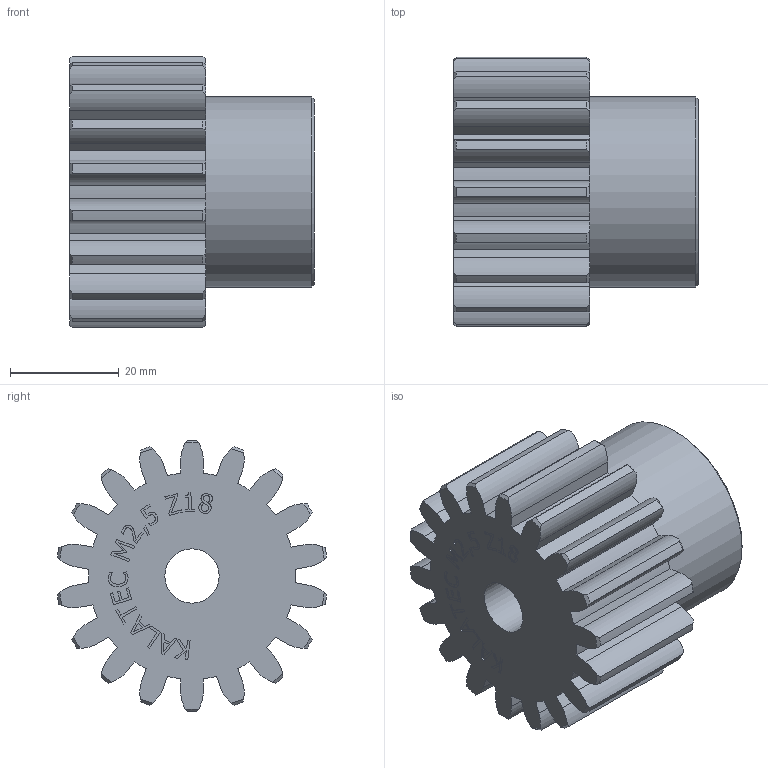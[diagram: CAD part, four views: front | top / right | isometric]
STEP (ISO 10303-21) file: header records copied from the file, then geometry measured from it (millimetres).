
FILE_DESCRIPTION(/* description */ (''),/* implementation_level */ '2;1');
FILE_NAME(/* name */ '\\JOINapp01\Profiles\martins\Desktop\ENGRENAGEM\ENGRENAGEM CORRETA\ENG DENTE RETO M2,5 Z18.step',/* time_stamp */ '2018-07-06T13:42:38-03:00',/* author */ ('martins'),/* organization */ (''),/* preprocessor_version */ 'ST-DEVELOPER v16.1',/* originating_system */ 'Autodesk Inventor 2016',/* authorisation */ '');
FILE_SCHEMA (('AUTOMOTIVE_DESIGN { 1 0 10303 214 3 1 1 }'));
Length unit declared in the file: millimetre
Products named in the file (1): ENG DENTE RETO M2,5 Z18
Bounding box: 45 x 49.51 x 50 mm (x, y, z)
Volume: 53960.2 mm3; surface area: 14101.5 mm2
Topology: 1 solids, 1 shells, 343 faces, 971 edges, 647 vertices
Faces by surface type: plane 172, cylinder 74, bspline 60, cone 37
Full cylindrical faces by diameter (mm): 10 x1, 35 x1
Entity records: 11684 total; most frequent: CARTESIAN_POINT 3132, ORIENTED_EDGE 1936, DIRECTION 1529, EDGE_CURVE 968, VERTEX_POINT 647, LINE 591, VECTOR 591, AXIS2_PLACEMENT_3D 469
